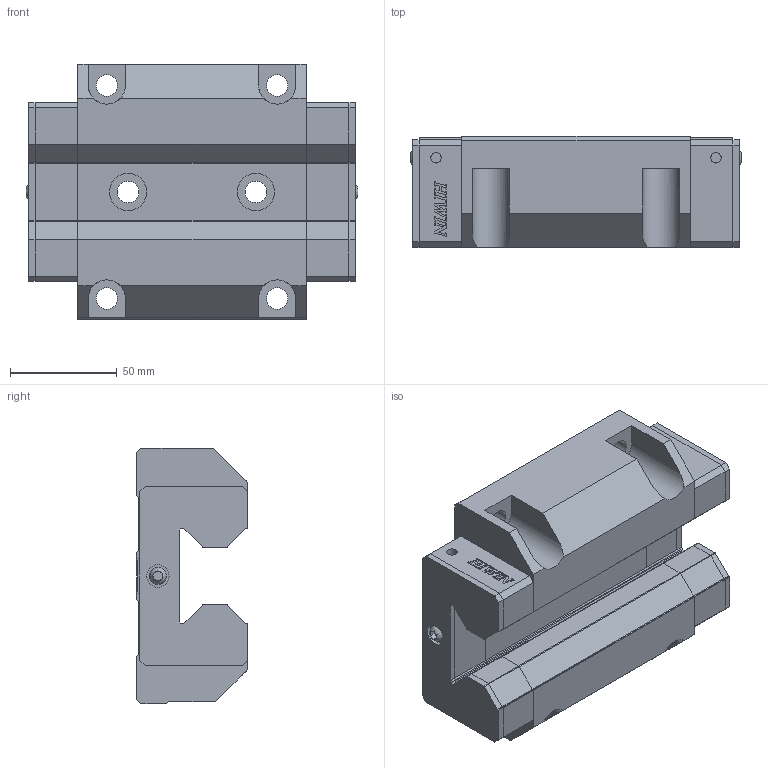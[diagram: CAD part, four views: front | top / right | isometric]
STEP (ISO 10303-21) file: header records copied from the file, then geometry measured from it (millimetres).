
FILE_DESCRIPTION(/* description */ (''),/* implementation_level */ '2;1');
FILE_NAME(/* name */ 'URW45CCZAH_GW202603049635.stp',/* time_stamp */ '2026-03-30T22:59:43+08:00',/* author */ ('User'),/* organization */ (''),/* preprocessor_version */ 'ST-DEVELOPER v20.1',/* originating_system */ 'Autodesk Inventor 2026',/* authorisation */ '');
FILE_SCHEMA (('AUTOMOTIVE_DESIGN { 1 0 10303 214 3 1 1 }'));
Products named in the file (3): URW45CCZAH_GW202603049635; URW45C_左封; 31010069
Assembly tree (3 placements, depth 2):
  URW45CCZAH_GW202603049635
    URW45C_左封
    31010069  x2
Bounding box: 155.8 x 52 x 120 mm (x, y, z)
Volume: 618046.7 mm3; surface area: 101906.8 mm2
Topology: 7 solids, 7 shells, 534 faces, 1476 edges, 982 vertices
Faces by surface type: plane 392, cylinder 140, bspline 2
Full cylindrical faces by diameter (mm): 1.5 x2, 4.917 x4, 6 x2, 6.4 x2, 8 x2, 10.106 x6, 10.3 x2, 10.5 x2, 17.5 x2
Entity records: 16802 total; most frequent: CARTESIAN_POINT 2968, ORIENTED_EDGE 2900, DIRECTION 2788, EDGE_CURVE 1450, LINE 1164, VECTOR 1164, VERTEX_POINT 965, AXIS2_PLACEMENT_3D 812
